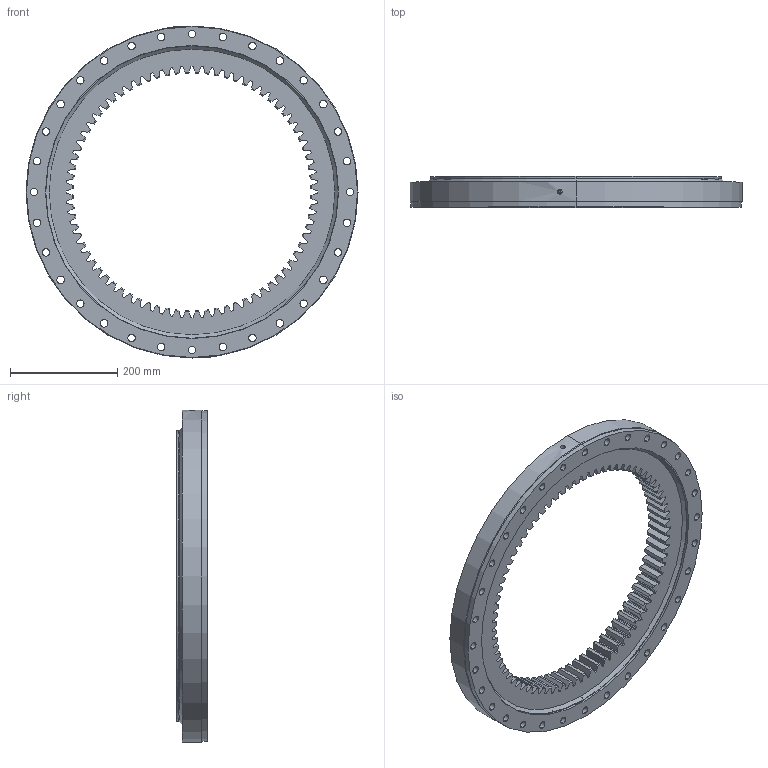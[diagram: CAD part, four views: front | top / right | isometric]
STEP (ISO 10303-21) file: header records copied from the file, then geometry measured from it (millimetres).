
FILE_DESCRIPTION (( 'STEP AP214' ), '1' );
FILE_NAME ('B2120-1-0620AC.STEP', '2022-11-24T06:46:46', ( '' ), ( '' ), 'SwSTEP 2.0', 'SolidWorks 2020', '' );
FILE_SCHEMA (( 'AUTOMOTIVE_DESIGN' ));
Length unit declared in the file: millimetre
Products named in the file (1): B2120-1-0620AC
Bounding box: 620 x 57 x 620 mm (x, y, z)
Volume: 6045398.7 mm3; surface area: 892571.5 mm2
Topology: 4 solids, 4 shells, 846 faces, 2354 edges, 1492 vertices
Faces by surface type: plane 320, cone 290, cylinder 236
Entity records: 27451 total; most frequent: CARTESIAN_POINT 6381, ORIENTED_EDGE 4580, DIRECTION 4130, EDGE_CURVE 2290, AXIS2_PLACEMENT_3D 1535, VERTEX_POINT 1492, LINE 1060, VECTOR 1060
